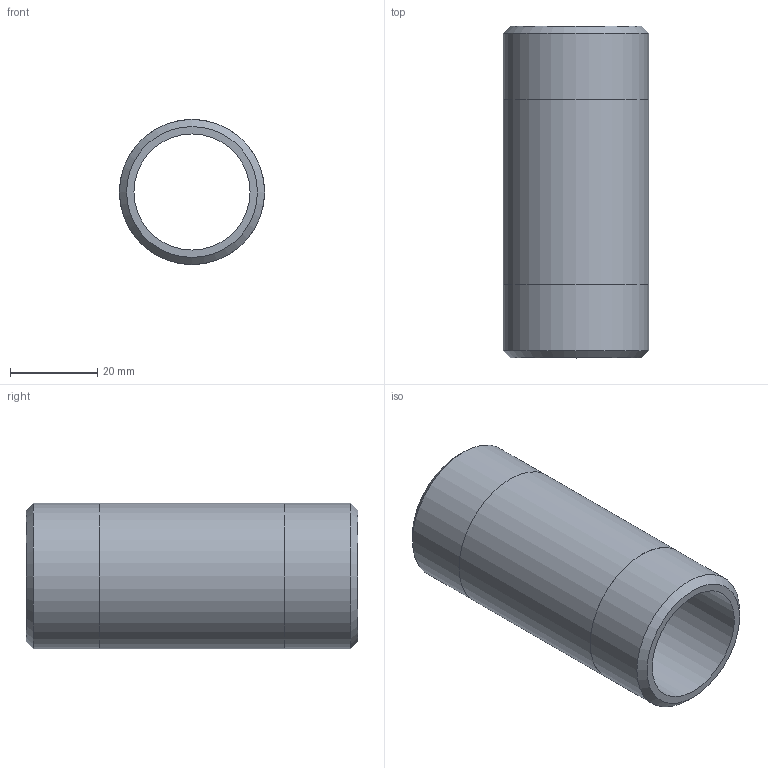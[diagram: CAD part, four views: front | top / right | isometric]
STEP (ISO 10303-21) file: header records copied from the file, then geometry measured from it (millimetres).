
FILE_DESCRIPTION(/* description */ (''),/* implementation_level */ '2;1');
FILE_NAME(/* name */ 'C:/Users/drich/Desktop/BPN1-3 v1.step',/* time_stamp */ '2020-01-03T14:15:31-06:00',/* author */ (''),/* organization */ (''),/* preprocessor_version */ 'ST-DEVELOPER v18',/* originating_system */ 'Autodesk Translation Framework v8.12.0.6',/* authorisation */ '');
FILE_SCHEMA (('AUTOMOTIVE_DESIGN { 1 0 10303 214 3 1 1 }'));
Length unit declared in the file: inch
Products named in the file (1): BPN1-3
Bounding box: 33.4 x 76.2 x 33.4 mm (x, y, z)
Volume: 23914 mm3; surface area: 14796.4 mm2
Topology: 1 solids, 1 shells, 10 faces, 24 edges, 18 vertices
Faces by surface type: cylinder 4, plane 4, cone 2
Full cylindrical faces by diameter (mm): 26.645 x1, 33.35 x2, 33.401 x1
Entity records: 360 total; most frequent: DIRECTION 64, CARTESIAN_POINT 53, ORIENTED_EDGE 48, AXIS2_PLACEMENT_3D 29, EDGE_CURVE 24, CIRCLE 18, VERTEX_POINT 18, EDGE_LOOP 14
